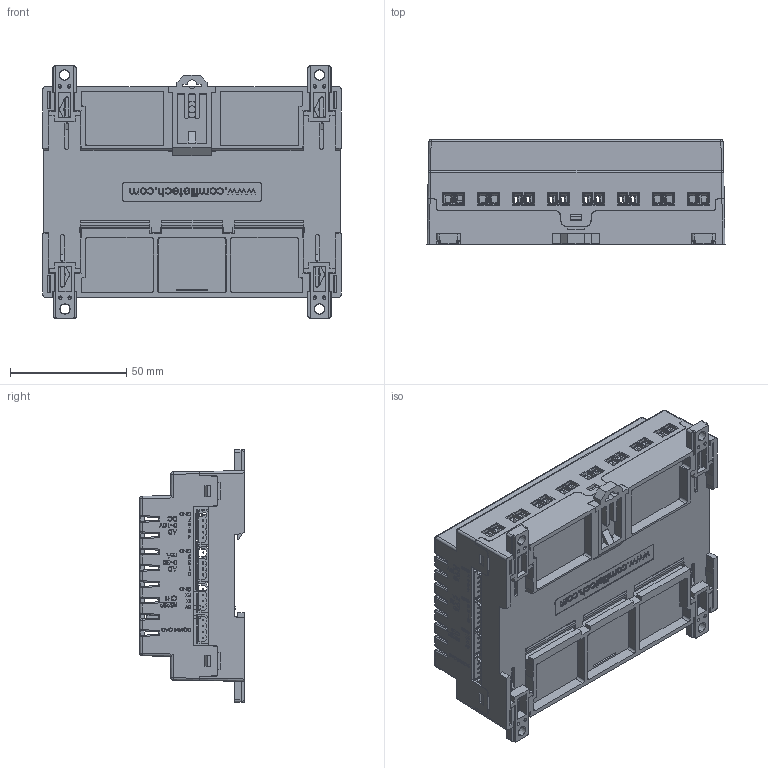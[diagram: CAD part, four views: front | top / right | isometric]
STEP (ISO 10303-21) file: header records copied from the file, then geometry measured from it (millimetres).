
FILE_DESCRIPTION (( 'STEP AP214' ), '1' );
FILE_NAME ('MSB624RA-DC_ASM.STEP', '2016-05-27T09:05:17', ( 'Registered User' ), ( 'Microsoft Corporation' ), 'SwSTEP 2.0', 'SolidWorks 2014', '' );
FILE_SCHEMA (( 'AUTOMOTIVE_DESIGN' ));
Length unit declared in the file: millimetre
Products named in the file (1): MSB624RA-DC_ASM
Bounding box: 128 x 44.95 x 108.5 mm (x, y, z)
Surface area: 96794.3 mm2 (no closed solid volume)
Topology: 0 solids, 239 shells, 2782 faces, 12773 edges, 10060 vertices
Faces by surface type: plane 1998, cylinder 362, bspline 308, cone 114
Entity records: 203744 total; most frequent: CARTESIAN_POINT 80474, ORIENTED_EDGE 18158, DIRECTION 14964, EDGE_CURVE 12773, VERTEX_POINT 10060, VECTOR 8436, LINE 8436, EDGE_LOOP 3377
